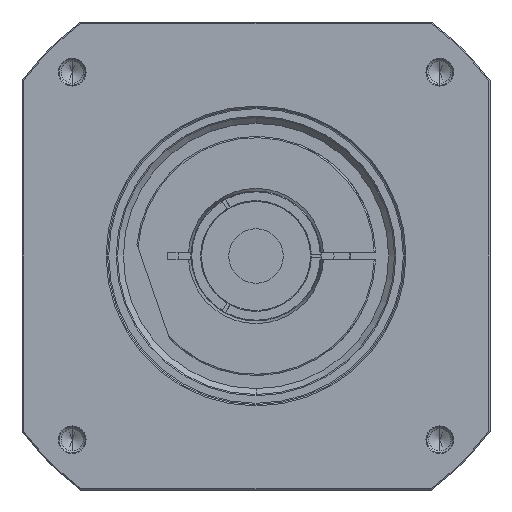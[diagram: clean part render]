
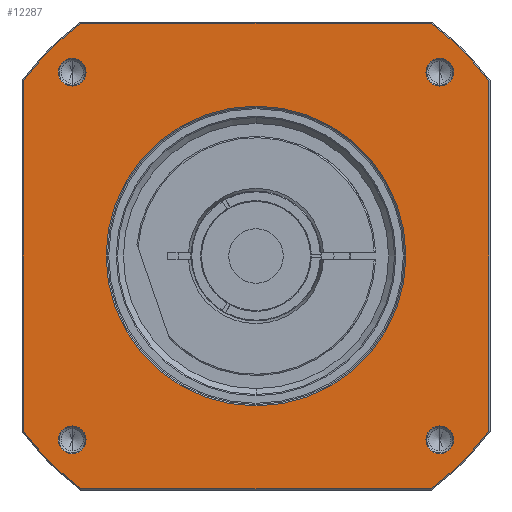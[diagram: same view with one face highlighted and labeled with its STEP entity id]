
A CAD part, left-side view. The second image highlights one B-rep face of the part: STEP entity #12287.
In plain terms, the highlighted planar face has unit normal (-1, 0, 0) as drawn and (0, 0, 1) by its records, which use the part's own axes.
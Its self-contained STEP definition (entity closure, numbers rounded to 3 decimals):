
#11020=DIRECTION('',(1.,0.,0.));
#11021=VECTOR('',#11020,134.666);
#11022=CARTESIAN_POINT('',(-67.333,-89.5,41.));
#11023=LINE('',#11022,#11021);
#11033=CARTESIAN_POINT('',(0.,0.,
41.));
#11034=DIRECTION('',(0.,0.,-1.));
#11035=DIRECTION('',(0.,-1.,0.));
#11036=AXIS2_PLACEMENT_3D('',#11033,#11034,#11035);
#11038=CARTESIAN_POINT('',(0.,0.,
41.));
#11039=DIRECTION('',(0.,0.,-1.));
#11040=DIRECTION('',(0.,1.,0.));
#11041=AXIS2_PLACEMENT_3D('',#11038,#11039,#11040);
#11043=CARTESIAN_POINT('',(0.,0.,41.));
#11044=DIRECTION('',(0.,0.,1.));
#11045=DIRECTION('',(-0.799,-0.601,0.));
#11046=AXIS2_PLACEMENT_3D('',#11043,#11044,#11045);
#11058=DIRECTION('',(0.,-1.,0.));
#11059=VECTOR('',#11058,134.666);
#11060=CARTESIAN_POINT('',(-89.5,67.333,41.));
#11061=LINE('',#11060,#11059);
#11071=CARTESIAN_POINT('',(0.,0.,41.));
#11072=DIRECTION('',(0.,0.,1.));
#11073=DIRECTION('',(-0.601,0.799,0.));
#11074=AXIS2_PLACEMENT_3D('',#11071,#11072,#11073);
#11099=DIRECTION('',(-1.,0.,0.));
#11100=VECTOR('',#11099,134.666);
#11101=CARTESIAN_POINT('',(67.333,89.5,41.));
#11102=LINE('',#11101,#11100);
#11107=CARTESIAN_POINT('',(0.,0.,41.));
#11108=DIRECTION('',(0.,0.,1.));
#11109=DIRECTION('',(0.799,0.601,0.));
#11110=AXIS2_PLACEMENT_3D('',#11107,#11108,#11109);
#11122=DIRECTION('',(0.,1.,0.));
#11123=VECTOR('',#11122,134.666);
#11124=CARTESIAN_POINT('',(89.5,-67.333,41.));
#11125=LINE('',#11124,#11123);
#11227=CARTESIAN_POINT('',(0.,0.,41.));
#11228=DIRECTION('',(0.,0.,1.));
#11229=DIRECTION('',(0.601,-0.799,0.));
#11230=AXIS2_PLACEMENT_3D('',#11227,#11228,#11229);
#11504=CARTESIAN_POINT('',(-70.711,70.711,41.));
#11505=DIRECTION('',(0.,0.,1.));
#11506=DIRECTION('',(-1.,0.,0.));
#11507=AXIS2_PLACEMENT_3D('',#11504,#11505,#11506);
#11522=CARTESIAN_POINT('',(-70.711,70.711,41.));
#11523=DIRECTION('',(0.,0.,1.));
#11524=DIRECTION('',(1.,0.,0.));
#11525=AXIS2_PLACEMENT_3D('',#11522,#11523,#11524);
#11558=CARTESIAN_POINT('',(70.711,70.711,41.));
#11559=DIRECTION('',(0.,0.,1.));
#11560=DIRECTION('',(-1.,0.,0.));
#11561=AXIS2_PLACEMENT_3D('',#11558,#11559,#11560);
#11576=CARTESIAN_POINT('',(70.711,70.711,41.));
#11577=DIRECTION('',(0.,0.,1.));
#11578=DIRECTION('',(1.,0.,0.));
#11579=AXIS2_PLACEMENT_3D('',#11576,#11577,#11578);
#11612=CARTESIAN_POINT('',(70.711,-70.711,41.));
#11613=DIRECTION('',(0.,0.,1.));
#11614=DIRECTION('',(-1.,0.,0.));
#11615=AXIS2_PLACEMENT_3D('',#11612,#11613,#11614);
#11630=CARTESIAN_POINT('',(70.711,-70.711,41.));
#11631=DIRECTION('',(0.,0.,1.));
#11632=DIRECTION('',(1.,0.,0.));
#11633=AXIS2_PLACEMENT_3D('',#11630,#11631,#11632);
#11666=CARTESIAN_POINT('',(-70.711,-70.711,41.));
#11667=DIRECTION('',(0.,0.,1.));
#11668=DIRECTION('',(-1.,0.,0.));
#11669=AXIS2_PLACEMENT_3D('',#11666,#11667,#11668);
#11684=CARTESIAN_POINT('',(-70.711,-70.711,41.));
#11685=DIRECTION('',(0.,0.,1.));
#11686=DIRECTION('',(1.,0.,0.));
#11687=AXIS2_PLACEMENT_3D('',#11684,#11685,#11686);
#11728=CARTESIAN_POINT('',(89.5,-67.333,41.));
#11729=CARTESIAN_POINT('',(89.5,67.333,41.));
#11730=VERTEX_POINT('',#11728);
#11731=VERTEX_POINT('',#11729);
#11736=CARTESIAN_POINT('',(67.333,-89.5,41.));
#11737=VERTEX_POINT('',#11736);
#11740=CARTESIAN_POINT('',(-67.333,-89.5,41.));
#11741=VERTEX_POINT('',#11740);
#11744=CARTESIAN_POINT('',(-89.5,-67.333,41.));
#11745=VERTEX_POINT('',#11744);
#11748=CARTESIAN_POINT('',(-89.5,67.333,41.));
#11749=VERTEX_POINT('',#11748);
#11752=CARTESIAN_POINT('',(-67.333,89.5,41.));
#11753=VERTEX_POINT('',#11752);
#11756=CARTESIAN_POINT('',(67.333,89.5,41.));
#11757=VERTEX_POINT('',#11756);
#11806=CARTESIAN_POINT('',(-76.061,70.711,41.));
#11807=CARTESIAN_POINT('',(-65.361,70.711,41.));
#11808=VERTEX_POINT('',#11806);
#11809=VERTEX_POINT('',#11807);
#11840=CARTESIAN_POINT('',(76.061,70.711,41.));
#11841=CARTESIAN_POINT('',(65.361,70.711,41.));
#11842=VERTEX_POINT('',#11840);
#11843=VERTEX_POINT('',#11841);
#11848=CARTESIAN_POINT('',(76.061,-70.711,41.));
#11849=CARTESIAN_POINT('',(65.361,-70.711,41.));
#11850=VERTEX_POINT('',#11848);
#11851=VERTEX_POINT('',#11849);
#11856=CARTESIAN_POINT('',(-65.361,-70.711,41.));
#11857=CARTESIAN_POINT('',(-76.061,-70.711,41.));
#11858=VERTEX_POINT('',#11856);
#11859=VERTEX_POINT('',#11857);
#11864=CARTESIAN_POINT('',(0.,-57.65,41.));
#11865=CARTESIAN_POINT('',(0.,57.65,41.));
#11866=VERTEX_POINT('',#11864);
#11867=VERTEX_POINT('',#11865);
#12235=CARTESIAN_POINT('',(0.,0.,41.));
#12236=DIRECTION('',(0.,0.,1.));
#12237=DIRECTION('',(1.,0.,0.));
#12238=AXIS2_PLACEMENT_3D('',#12235,#12236,#12237);
#12239=PLANE('',#12238);
#12241=ORIENTED_EDGE('',*,*,#12240,.F.);
#12243=ORIENTED_EDGE('',*,*,#12242,.F.);
#12245=ORIENTED_EDGE('',*,*,#12244,.F.);
#12247=ORIENTED_EDGE('',*,*,#12246,.F.);
#12249=ORIENTED_EDGE('',*,*,#12248,.F.);
#12251=ORIENTED_EDGE('',*,*,#12250,.F.);
#12253=ORIENTED_EDGE('',*,*,#12252,.F.);
#12254=ORIENTED_EDGE('',*,*,#12225,.F.);
#12255=EDGE_LOOP('',(#12241,#12243,#12245,#12247,#12249,#12251,#12253,#12254));
#12256=FACE_OUTER_BOUND('',#12255,.F.);
#12258=ORIENTED_EDGE('',*,*,#12257,.F.);
#12260=ORIENTED_EDGE('',*,*,#12259,.F.);
#12261=EDGE_LOOP('',(#12258,#12260));
#12262=FACE_BOUND('',#12261,.F.);
#12264=ORIENTED_EDGE('',*,*,#12263,.T.);
#12266=ORIENTED_EDGE('',*,*,#12265,.T.);
#12267=EDGE_LOOP('',(#12264,#12266));
#12268=FACE_BOUND('',#12267,.F.);
#12270=ORIENTED_EDGE('',*,*,#12269,.T.);
#12272=ORIENTED_EDGE('',*,*,#12271,.T.);
#12273=EDGE_LOOP('',(#12270,#12272));
#12274=FACE_BOUND('',#12273,.F.);
#12276=ORIENTED_EDGE('',*,*,#12275,.T.);
#12278=ORIENTED_EDGE('',*,*,#12277,.T.);
#12279=EDGE_LOOP('',(#12276,#12278));
#12280=FACE_BOUND('',#12279,.F.);
#12282=ORIENTED_EDGE('',*,*,#12281,.T.);
#12284=ORIENTED_EDGE('',*,*,#12283,.T.);
#12285=EDGE_LOOP('',(#12282,#12284));
#12286=FACE_BOUND('',#12285,.F.);
#12287=ADVANCED_FACE('',(#12256,#12262,#12268,#12274,#12280,#12286),#12239,.T.);
#11037=CIRCLE('',#11036,57.65);
#11042=CIRCLE('',#11041,57.65);
#11047=CIRCLE('',#11046,112.);
#11075=CIRCLE('',#11074,112.);
#11111=CIRCLE('',#11110,112.);
#11231=CIRCLE('',#11230,112.);
#11508=CIRCLE('',#11507,5.35);
#11526=CIRCLE('',#11525,5.35);
#11562=CIRCLE('',#11561,5.35);
#11580=CIRCLE('',#11579,5.35);
#11616=CIRCLE('',#11615,5.35);
#11634=CIRCLE('',#11633,5.35);
#11670=CIRCLE('',#11669,5.35);
#11688=CIRCLE('',#11687,5.35);
#12225=EDGE_CURVE('',#11741,#11737,#11023,.T.);
#12240=EDGE_CURVE('',#11745,#11741,#11047,.T.);
#12242=EDGE_CURVE('',#11749,#11745,#11061,.T.);
#12244=EDGE_CURVE('',#11753,#11749,#11075,.T.);
#12246=EDGE_CURVE('',#11757,#11753,#11102,.T.);
#12248=EDGE_CURVE('',#11731,#11757,#11111,.T.);
#12250=EDGE_CURVE('',#11730,#11731,#11125,.T.);
#12252=EDGE_CURVE('',#11737,#11730,#11231,.T.);
#12257=EDGE_CURVE('',#11866,#11867,#11037,.T.);
#12259=EDGE_CURVE('',#11867,#11866,#11042,.T.);
#12263=EDGE_CURVE('',#11808,#11809,#11508,.T.);
#12265=EDGE_CURVE('',#11809,#11808,#11526,.T.);
#12269=EDGE_CURVE('',#11843,#11842,#11562,.T.);
#12271=EDGE_CURVE('',#11842,#11843,#11580,.T.);
#12275=EDGE_CURVE('',#11851,#11850,#11616,.T.);
#12277=EDGE_CURVE('',#11850,#11851,#11634,.T.);
#12281=EDGE_CURVE('',#11859,#11858,#11670,.T.);
#12283=EDGE_CURVE('',#11858,#11859,#11688,.T.);
